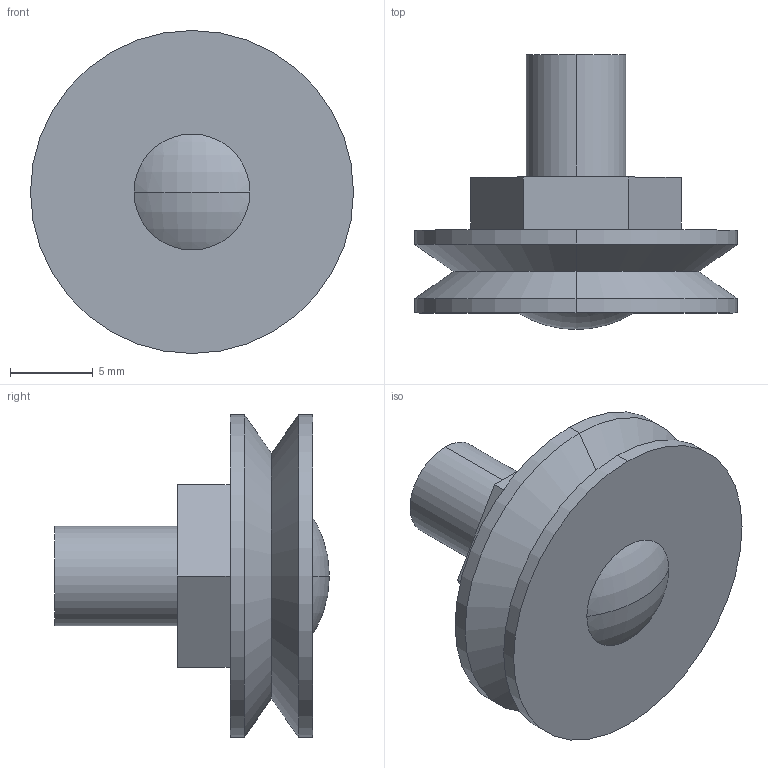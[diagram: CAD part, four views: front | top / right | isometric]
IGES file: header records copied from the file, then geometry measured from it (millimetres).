
Start section: 3D InterOp IGES (v. 2019 1.0.2), Spatial Corp. Copyright (c) 1999-2017.
Global section: file name: GBHJ 195 CNS.igs; native system: Spatial Corp.; preprocessor: 3D InterOp GENERIC/IGES 3.0; author: Noname; organization: Noname; date: 20220628.170606; units: millimetre
Bounding box: 19.5 x 16.6 x 19.5 mm (x, y, z)
Surface area: 1275.7 mm2 (no closed solid volume)
Topology: 0 solids, 0 shells, 22 faces, 92 edges, 92 vertices
Faces by surface type: revolution 12, extrusion 10
